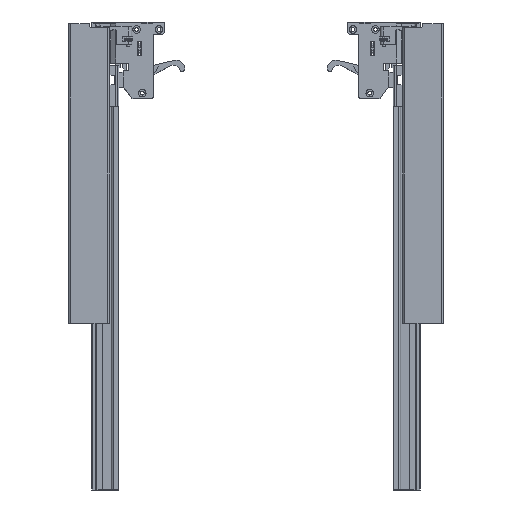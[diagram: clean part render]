
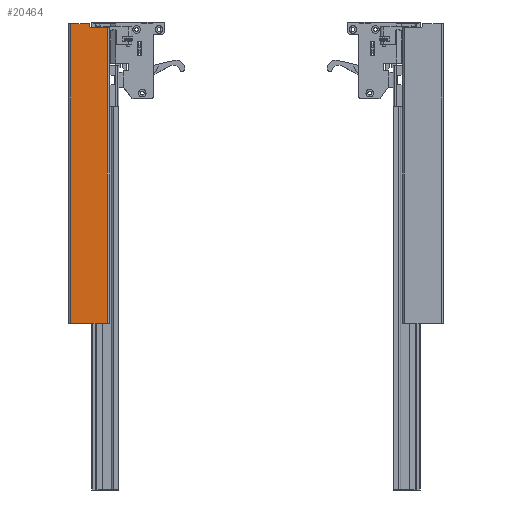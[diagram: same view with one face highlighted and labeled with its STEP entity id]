
A CAD part, front view. The second image highlights one B-rep face of the part: STEP entity #20464.
In plain terms, the highlighted planar face has unit normal (0, -1, 0).
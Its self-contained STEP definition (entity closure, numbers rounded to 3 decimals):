
#327=PLANE('',#21705);
#934=FACE_OUTER_BOUND('',#1974,.T.);
#1974=EDGE_LOOP('',(#13143,#13144,#13145,#13146,#13147,#13148,#13149));
#3174=LINE('',#29682,#5216);
#3182=LINE('',#29705,#5224);
#3189=LINE('',#29722,#5231);
#3190=LINE('',#29726,#5232);
#3191=LINE('',#29728,#5233);
#3192=LINE('',#29729,#5234);
#5216=VECTOR('',#23682,10.);
#5224=VECTOR('',#23700,10.);
#5231=VECTOR('',#23717,10.);
#5232=VECTOR('',#23722,10.);
#5233=VECTOR('',#23723,10.);
#5234=VECTOR('',#23724,10.);
#7256=CIRCLE('',#21692,1.85);
#8173=VERTEX_POINT('',#29673);
#8174=VERTEX_POINT('',#29675);
#8176=VERTEX_POINT('',#29681);
#8186=VERTEX_POINT('',#29703);
#8191=VERTEX_POINT('',#29721);
#8192=VERTEX_POINT('',#29725);
#8193=VERTEX_POINT('',#29727);
#10145=EDGE_CURVE('',#8174,#8173,#7256,.T.);
#10148=EDGE_CURVE('',#8176,#8174,#3174,.T.);
#10160=EDGE_CURVE('',#8173,#8186,#3182,.T.);
#10168=EDGE_CURVE('',#8176,#8191,#3189,.T.);
#10170=EDGE_CURVE('',#8192,#8186,#3190,.T.);
#10171=EDGE_CURVE('',#8192,#8193,#3191,.T.);
#10172=EDGE_CURVE('',#8191,#8193,#3192,.T.);
#13143=ORIENTED_EDGE('',*,*,#10148,.T.);
#13144=ORIENTED_EDGE('',*,*,#10145,.T.);
#13145=ORIENTED_EDGE('',*,*,#10160,.T.);
#13146=ORIENTED_EDGE('',*,*,#10170,.F.);
#13147=ORIENTED_EDGE('',*,*,#10171,.T.);
#13148=ORIENTED_EDGE('',*,*,#10172,.F.);
#13149=ORIENTED_EDGE('',*,*,#10168,.F.);
#20464=ADVANCED_FACE('',(#934),#327,.T.);
#21692=AXIS2_PLACEMENT_3D('',#29676,#23676,#23677);
#21705=AXIS2_PLACEMENT_3D('',#29724,#23720,#23721);
#23676=DIRECTION('center_axis',(0.,1.,0.));
#23677=DIRECTION('ref_axis',(0.,0.,1.));
#23682=DIRECTION('',(-1.,0.,0.));
#23700=DIRECTION('',(0.,0.,1.));
#23717=DIRECTION('',(0.,0.,-1.));
#23720=DIRECTION('center_axis',(0.,-1.,0.));
#23721=DIRECTION('ref_axis',(-1.,0.,0.));
#23722=DIRECTION('',(1.,0.,0.));
#23723=DIRECTION('',(0.,0.,-1.));
#23724=DIRECTION('',(-1.,0.,0.));
#29673=CARTESIAN_POINT('',(22.,0.,-2.15));
#29675=CARTESIAN_POINT('',(23.85,0.,-4.));
#29676=CARTESIAN_POINT('Origin',(23.85,0.,-2.15));
#29681=CARTESIAN_POINT('',(41.,0.,-4.));
#29682=CARTESIAN_POINT('',(32.425,0.,-4.));
#29703=CARTESIAN_POINT('',(22.,0.,0.));
#29705=CARTESIAN_POINT('',(22.,0.,80.));
#29721=CARTESIAN_POINT('',(41.,0.,-320.));
#29722=CARTESIAN_POINT('',(41.,0.,0.));
#29724=CARTESIAN_POINT('Origin',(41.,0.,0.));
#29725=CARTESIAN_POINT('',(2.,0.,0.));
#29726=CARTESIAN_POINT('',(2.,0.,0.));
#29727=CARTESIAN_POINT('',(2.,0.,-320.));
#29728=CARTESIAN_POINT('',(2.,0.,0.));
#29729=CARTESIAN_POINT('',(2.,0.,-320.));
